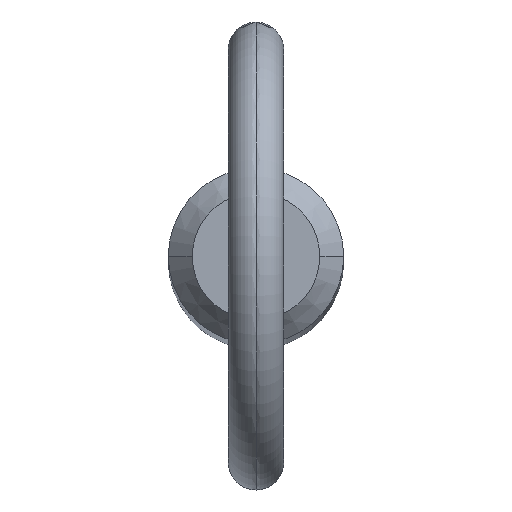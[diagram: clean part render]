
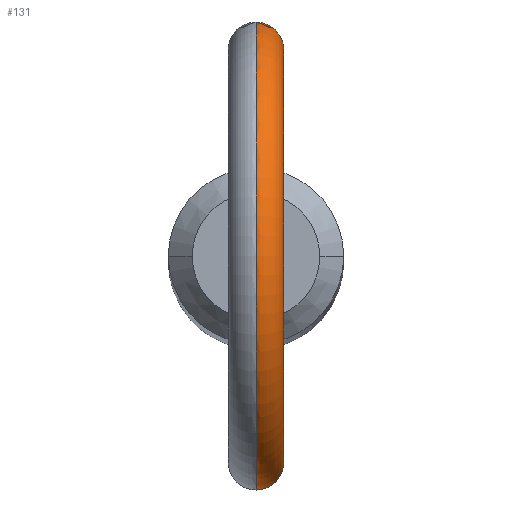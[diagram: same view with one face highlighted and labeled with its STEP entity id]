
A CAD part, top view. The second image highlights one B-rep face of the part: STEP entity #131.
In plain terms, the highlighted toroidal (fillet/blend) face has major radius 11.2 mm and minor radius 1.5 mm.
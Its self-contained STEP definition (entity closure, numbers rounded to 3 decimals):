
#4 = CARTESIAN_POINT ( 'NONE',  ( 1.385, -4.554, 151.732 ) ) ;
#5 = CARTESIAN_POINT ( 'NONE',  ( 0.409, -4.743, 154.078 ) ) ;
#8 = CARTESIAN_POINT ( 'NONE',  ( 1.478, -4.525, 152.652 ) ) ;
#11 = CARTESIAN_POINT ( 'NONE',  ( 0.925, -4.67, 153.739 ) ) ;
#20 = CARTESIAN_POINT ( 'NONE',  ( 1.487, 4.522, 152.653 ) ) ;
#40 = ORIENTED_EDGE ( 'NONE', *, *, #370, .T. ) ;
#41 = VERTEX_POINT ( 'NONE', #235 ) ;
#44 = CARTESIAN_POINT ( 'NONE',  ( 0.97, -4.662, 151.15 ) ) ;
#49 = CARTESIAN_POINT ( 'NONE',  ( 0.104, -4.76, 154.148 ) ) ;
#54 = CARTESIAN_POINT ( 'NONE',  ( 1.178, -4.613, 151.376 ) ) ;
#55 = EDGE_CURVE ( 'NONE', #285, #294, #438, .T. ) ;
#61 = CARTESIAN_POINT ( 'NONE',  ( 0., 4.76, 154.148 ) ) ;
#75 = FACE_OUTER_BOUND ( 'NONE', #237, .T. ) ;
#89 = CARTESIAN_POINT ( 'NONE',  ( 0.411, -4.743, 150.877 ) ) ;
#93 = EDGE_CURVE ( 'NONE', #294, #41, #440, .T. ) ;
#96 = CARTESIAN_POINT ( 'NONE',  ( 0.77, -4.698, 153.875 ) ) ;
#103 = CARTESIAN_POINT ( 'NONE',  ( 1.177, 4.613, 151.375 ) ) ;
#131 = ADVANCED_FACE ( 'NONE', ( #75 ), #388, .T. ) ;
#132 = CARTESIAN_POINT ( 'NONE',  ( 0.512, -4.733, 150.908 ) ) ;
#139 = CARTESIAN_POINT ( 'NONE',  ( 1.441, 4.537, 152.859 ) ) ;
#143 = CARTESIAN_POINT ( 'NONE',  ( 0., -4.76, 154.148 ) ) ;
#148 = CARTESIAN_POINT ( 'NONE',  ( 0.771, 4.698, 153.875 ) ) ;
#173 = CARTESIAN_POINT ( 'NONE',  ( 0., 0., 162.6 ) ) ;
#177 = CARTESIAN_POINT ( 'NONE',  ( 0.105, -4.76, 150.826 ) ) ;
#184 = CARTESIAN_POINT ( 'NONE',  ( 1.473, -4.526, 152.031 ) ) ;
#189 = CARTESIAN_POINT ( 'NONE',  ( 0.795, 4.697, 151.028 ) ) ;
#190 = CARTESIAN_POINT ( 'NONE',  ( 0.685, 4.711, 153.936 ) ) ;
#197 = CARTESIAN_POINT ( 'NONE',  ( 0.207, 4.757, 150.836 ) ) ;
#214 = ORIENTED_EDGE ( 'NONE', *, *, #55, .F. ) ;
#216 = CARTESIAN_POINT ( 'NONE',  ( 1.404, -4.548, 152.953 ) ) ;
#219 = DIRECTION ( 'NONE',  ( 0., 0., -1. ) ) ;
#221 = CARTESIAN_POINT ( 'NONE',  ( 0.997, -4.655, 153.664 ) ) ;
#226 = CARTESIAN_POINT ( 'NONE',  ( 0.925, 4.67, 153.74 ) ) ;
#233 = DIRECTION ( 'NONE',  ( 0., 0., -1. ) ) ;
#235 = CARTESIAN_POINT ( 'NONE',  ( 0., -4.76, 150.826 ) ) ;
#237 = EDGE_LOOP ( 'NONE', ( #319, #40, #323, #214 ) ) ;
#241 = CIRCLE ( 'NONE', #480, 12.7 ) ;
#246 = B_SPLINE_CURVE_WITH_KNOTS ( 'NONE', 3,
 ( #424, #472, #197, #278, #273, #189, #346, #103, #421, #349, #312, #506, #503, #20, #139, #390, #315, #468, #226, #148, #190, #269, #271, #344 ),
 .UNSPECIFIED., .F., .F.,
 ( 4, 2, 2, 2, 2, 2, 2, 2, 2, 2, 2, 4 ),
 ( 0.001, 0.001, 0.001, 0.002, 0.002, 0.002, 0.003, 0.004, 0.004, 0.005, 0.005, 0.006 ),
 .UNSPECIFIED. ) ;
#249 = DIRECTION ( 'NONE',  ( 1., 0., 0. ) ) ;
#253 = CARTESIAN_POINT ( 'NONE',  ( 1.45, -4.534, 151.928 ) ) ;
#254 = DIRECTION ( 'NONE',  ( 1., 0., 0. ) ) ;
#258 = CARTESIAN_POINT ( 'NONE',  ( 0.209, -4.756, 154.134 ) ) ;
#260 = CARTESIAN_POINT ( 'NONE',  ( 0.506, -4.734, 154.037 ) ) ;
#261 = AXIS2_PLACEMENT_3D ( 'NONE', #173, #377, #233 ) ;
#269 = CARTESIAN_POINT ( 'NONE',  ( 0.415, 4.745, 154.088 ) ) ;
#271 = CARTESIAN_POINT ( 'NONE',  ( 0.208, 4.76, 154.148 ) ) ;
#273 = CARTESIAN_POINT ( 'NONE',  ( 0.511, 4.733, 150.908 ) ) ;
#278 = CARTESIAN_POINT ( 'NONE',  ( 0.411, 4.743, 150.877 ) ) ;
#285 = VERTEX_POINT ( 'NONE', #61 ) ;
#292 = EDGE_CURVE ( 'NONE', #477, #285, #246, .T. ) ;
#294 = VERTEX_POINT ( 'NONE', #143 ) ;
#295 = CARTESIAN_POINT ( 'NONE',  ( 1.24, -4.596, 151.46 ) ) ;
#297 = CARTESIAN_POINT ( 'NONE',  ( 1.503, -4.517, 152.34 ) ) ;
#299 = CARTESIAN_POINT ( 'NONE',  ( 0.208, -4.757, 150.836 ) ) ;
#301 = CARTESIAN_POINT ( 'NONE',  ( 1.293, -4.582, 153.242 ) ) ;
#305 = CARTESIAN_POINT ( 'NONE',  ( 0.687, -4.711, 153.935 ) ) ;
#312 = CARTESIAN_POINT ( 'NONE',  ( 1.385, 4.554, 151.73 ) ) ;
#315 = CARTESIAN_POINT ( 'NONE',  ( 1.188, 4.611, 153.427 ) ) ;
#319 = ORIENTED_EDGE ( 'NONE', *, *, #292, .F. ) ;
#323 = ORIENTED_EDGE ( 'NONE', *, *, #93, .F. ) ;
#330 = DIRECTION ( 'NONE',  ( 0., 0., -1. ) ) ;
#333 = CARTESIAN_POINT ( 'NONE',  ( 0.797, -4.697, 151.029 ) ) ;
#337 = CARTESIAN_POINT ( 'NONE',  ( 0., -4.76, 150.826 ) ) ;
#344 = CARTESIAN_POINT ( 'NONE',  ( 0., 4.76, 154.148 ) ) ;
#346 = CARTESIAN_POINT ( 'NONE',  ( 0.968, 4.663, 151.149 ) ) ;
#349 = CARTESIAN_POINT ( 'NONE',  ( 1.343, 4.567, 151.637 ) ) ;
#370 = EDGE_CURVE ( 'NONE', #477, #41, #241, .T. ) ;
#374 = CARTESIAN_POINT ( 'NONE',  ( 1.344, -4.567, 151.639 ) ) ;
#375 = AXIS2_PLACEMENT_3D ( 'NONE', #494, #254, #219 ) ;
#377 = DIRECTION ( 'NONE',  ( 1., 0., 0. ) ) ;
#388 = TOROIDAL_SURFACE ( 'NONE', #261, 11.2, 1.5 ) ;
#390 = CARTESIAN_POINT ( 'NONE',  ( 1.292, 4.582, 153.244 ) ) ;
#411 = CARTESIAN_POINT ( 'NONE',  ( 1.492, -4.52, 152.548 ) ) ;
#418 = CARTESIAN_POINT ( 'NONE',  ( 1.434, -4.539, 152.854 ) ) ;
#421 = CARTESIAN_POINT ( 'NONE',  ( 1.239, 4.596, 151.459 ) ) ;
#424 = CARTESIAN_POINT ( 'NONE',  ( 0., 4.76, 150.826 ) ) ;
#438 = CIRCLE ( 'NONE', #375, 9.7 ) ;
#440 = B_SPLINE_CURVE_WITH_KNOTS ( 'NONE', 3,
 ( #462, #49, #258, #5, #260, #305, #96, #11, #221, #453, #301, #216, #418, #8, #411, #297, #492, #184, #253, #4, #374, #295, #54, #44, #333, #132, #89, #299, #177, #337 ),
 .UNSPECIFIED., .F., .F.,
 ( 4, 2, 2, 2, 2, 2, 2, 2, 2, 2, 2, 2, 2, 2, 4 ),
 ( 0.004, 0.005, 0.005, 0.005, 0.006, 0.006, 0.007, 0.007, 0.007, 0.007, 0.008, 0.008, 0.009, 0.009, 0.009 ),
 .UNSPECIFIED. ) ;
#453 = CARTESIAN_POINT ( 'NONE',  ( 1.19, -4.611, 153.424 ) ) ;
#462 = CARTESIAN_POINT ( 'NONE',  ( 0., -4.76, 154.148 ) ) ;
#468 = CARTESIAN_POINT ( 'NONE',  ( 0.996, 4.655, 153.666 ) ) ;
#469 = CARTESIAN_POINT ( 'NONE',  ( 0., 4.76, 150.826 ) ) ;
#472 = CARTESIAN_POINT ( 'NONE',  ( 0.104, 4.76, 150.826 ) ) ;
#477 = VERTEX_POINT ( 'NONE', #469 ) ;
#480 = AXIS2_PLACEMENT_3D ( 'NONE', #491, #249, #330 ) ;
#491 = CARTESIAN_POINT ( 'NONE',  ( 0., 0., 162.6 ) ) ;
#492 = CARTESIAN_POINT ( 'NONE',  ( 1.499, -4.518, 152.237 ) ) ;
#494 = CARTESIAN_POINT ( 'NONE',  ( 0., 0., 162.6 ) ) ;
#503 = CARTESIAN_POINT ( 'NONE',  ( 1.508, 4.515, 152.237 ) ) ;
#506 = CARTESIAN_POINT ( 'NONE',  ( 1.484, 4.523, 152.028 ) ) ;
